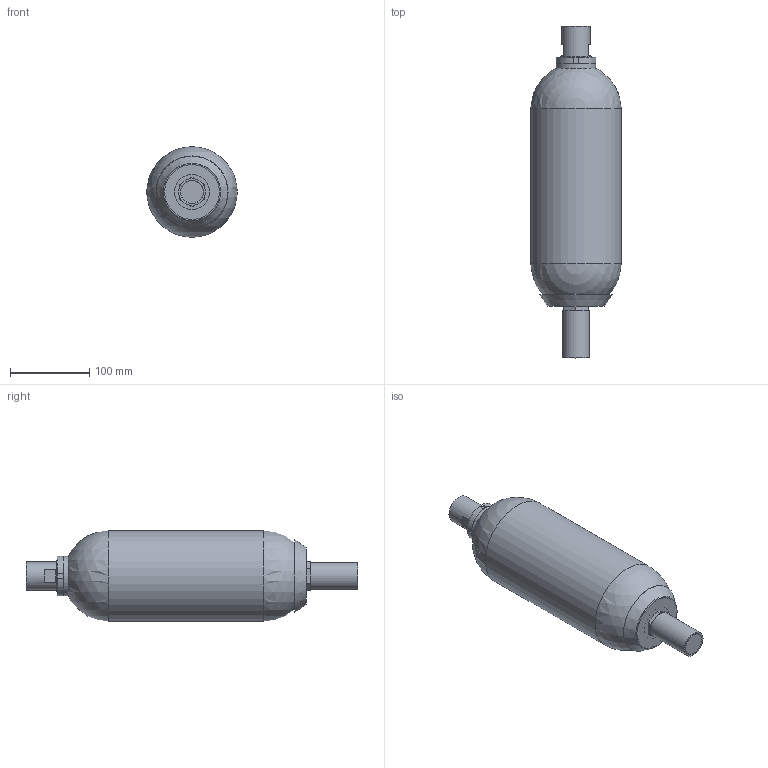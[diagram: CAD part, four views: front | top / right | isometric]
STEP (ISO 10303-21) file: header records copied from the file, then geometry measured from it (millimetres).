
FILE_DESCRIPTION((''),'2;1');
FILE_NAME('F:\a - plans scannés\ERIC\ACCU\ALLEGE\EHV_1L6_350_90_Ø22.stp','2013-10-01T16:00:20',('EL769727'),(''),'Autodesk Inventor 2013','Autodesk Inventor 2013','');
FILE_SCHEMA(('AUTOMOTIVE_DESIGN { 1 0 10303 214 1 1 1 1 }'));
Length unit declared in the file: millimetre
Products named in the file (12): AC109983; EC102958-00200; BP102851-00200; BP102851-00200 BOUCHON DE PROTECTION; BP102851-00200 BOUCHON PLASTIQUE; PF110670-05200; BC108642-00220; BE100067-00200; BM108641-00200; CB108640-00200; EC100985-00200; CA106199-00198
Assembly tree (11 placements, depth 4):
  AC109983
    EC102958-00200
    BP102851-00200
      BP102851-00200 BOUCHON DE PROTECTION
      BP102851-00200 BOUCHON PLASTIQUE
    PF110670-05200
    BC108642-00220
      BE100067-00200
      BM108641-00200
        CB108640-00200
      EC100985-00200
    CA106199-00198
Bounding box: 114.3 x 419.2 x 114.3 mm (x, y, z)
Volume: 844704.9 mm3; surface area: 260772.4 mm2
Topology: 8 solids, 8 shells, 138 faces, 310 edges, 199 vertices
Faces by surface type: plane 54, cylinder 42, cone 27, torus 10, sphere 4, bspline 1
Full cylindrical faces by diameter (mm): 5.5 x8, 6 x1, 8.5 x1, 10 x1, 20.68 x1, 22.5 x1, 23 x1, 24.117 x1, 25 x1, 25.3 x1, 26.8 x1, 28.5 x2, 29.5 x1, 30.05 x1, 31 x1, 33.6 x1, 35.6 x1, 36.376 x1, 36.5 x1, 38 x1, 38.8 x2, 44.2 x1, 44.3 x1, 44.4 x1, 50 x1, 100 x1, 114.3 x1
Entity records: 3646 total; most frequent: DIRECTION 638, CARTESIAN_POINT 581, ORIENTED_EDGE 404, AXIS2_PLACEMENT_3D 288, EDGE_LOOP 256, EDGE_CURVE 202, VERTEX_POINT 168, FACE_OUTER_BOUND 138
